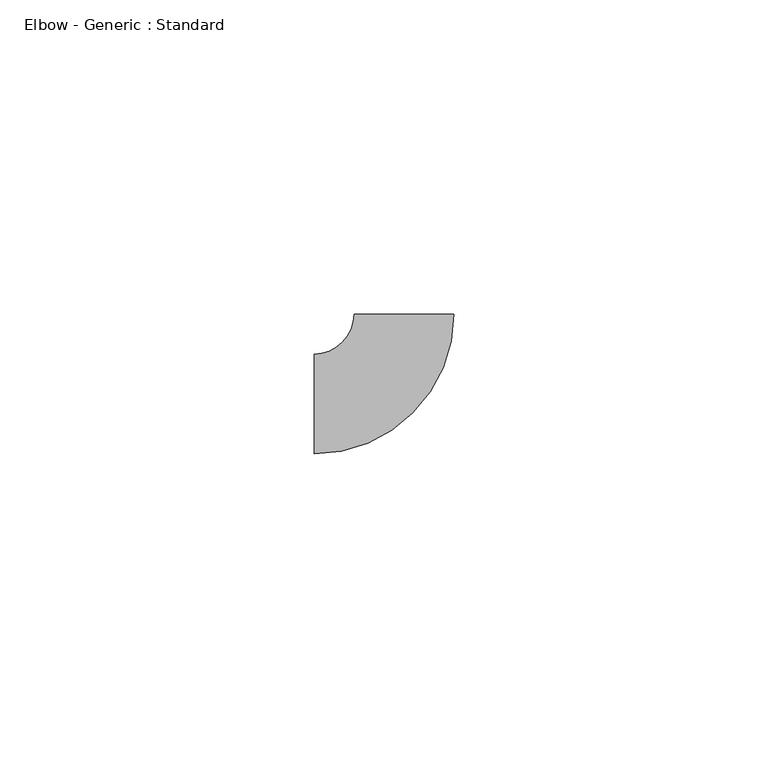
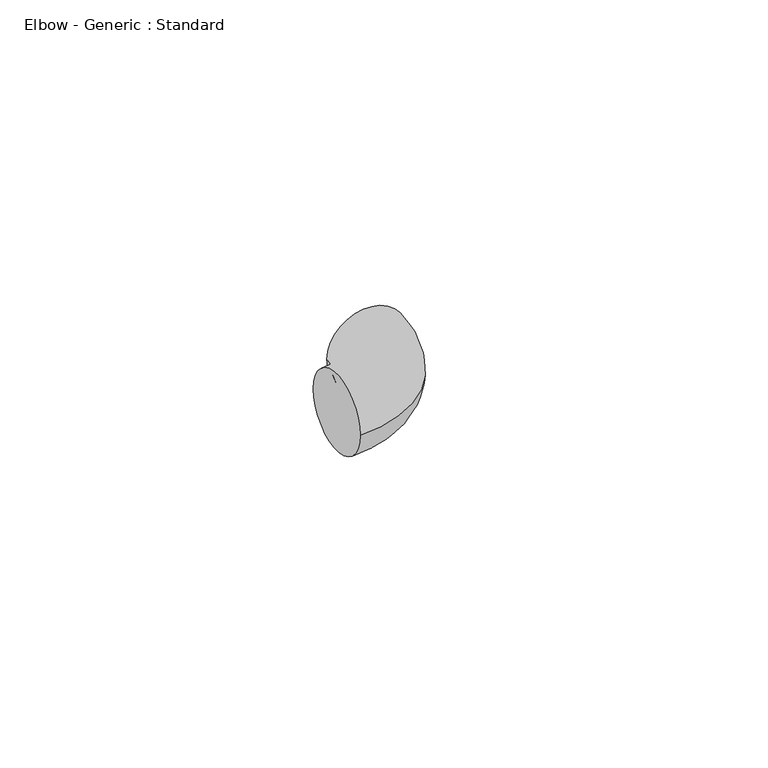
"""IFC4 building model written with IfcOpenShell, lengths in millimetres: pipe fitting geometry, Elbow - Generic : Standard."""

from ifc_helpers import new_model, si_unit, point, frame, origin, place, context, project, spatial, circle_curve, ellipse_curve, trimmed, source, transform, mapped, element, save
from ifc_brep_helpers import plane_surface, revolved_surface, advanced_brep


def elbow_generic_standard_ad6a8f26(model_context):
    return source(origin(), model_context, "Body", "AdvancedBrep", [
        advanced_brep(
        [(-14.2918952, -7.9375, 0.0), (-14.2918952, 7.9375, 0.0), (7.9331037, 14.2943359, 0.0), (-7.9418955, 14.2894531, 0.0)],
        [
            (0, 1, circle_curve(frame((-14.2918952, 0.0, 0.0), z_axis=(-1.0, 0.0, 0.0), x_axis=(0.0, 1.0, 0.0)), 7.9375)),
            (1, 0, circle_curve(frame((-14.2918952, 0.0, 0.0), z_axis=(-1.0, 0.0, 0.0), x_axis=(0.0, 1.0, 0.0)), 7.9375)),
            (2, 3, circle_curve(frame((-0.0043959, 14.2918945, 0.0), z_axis=(-0.0003075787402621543, 0.9999999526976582, 0.0), x_axis=(-0.9999999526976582, -0.0003075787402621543, 0.0)), 7.9375)),
            (3, 2, circle_curve(frame((-0.0043959, 14.2918945, 0.0), z_axis=(-0.0003075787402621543, 0.9999999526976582, 0.0), x_axis=(-0.9999999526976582, -0.0003075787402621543, 0.0)), 7.9375)),
            (3, 1, circle_curve(frame((-14.2918952, 14.2875, 0.0), z_axis=(0.0, 0.0, -1.0), x_axis=(0.0, -1.0, 0.0)), 6.35)),
            (0, 2, circle_curve(frame((-14.2918952, 14.2875, 0.0), z_axis=(0.0, 0.0, 1.0), x_axis=(0.0, -1.0, 0.0)), 22.225)),
        ],
        [
            plane_surface(frame((-14.2918952, 0.0, 0.0), z_axis=(-1.0, 0.0, 0.0), x_axis=(0.0, 0.0, 1.0))),
            plane_surface(frame((-0.0043959, 14.2918945, 0.0), z_axis=(-0.00030757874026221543, 0.9999999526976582, 0.0), x_axis=(0.0, 0.0, 1.0))),
            revolved_surface(trimmed(ellipse_curve(frame((-14.2918952, 0.0, 0.0), z_axis=(-1.0, 0.0, 0.0), x_axis=(0.0, 1.0, 0.0)), 7.9375, 7.9375), [point((-14.2918952, -7.9375, 0.0))], [point((-14.2918952, 7.9375, 0.0))], True, "CARTESIAN"), (-14.2918952, 14.2875, 0.0), (0.0, 0.0, 1.0)),
            revolved_surface(trimmed(ellipse_curve(frame((-14.2918952, 0.0, 0.0), z_axis=(-1.0, 0.0, 0.0), x_axis=(0.0, 1.0, 0.0)), 7.9375, 7.9375), [point((-14.2918952, 7.9375, 0.0))], [point((-14.2918952, -7.9375, 0.0))], True, "CARTESIAN"), (-14.2918952, 14.2875, 0.0), (0.0, 0.0, 1.0)),
        ],
        [
            (0, [[1, 2]]),
            (1, [[3, 4]]),
            (2, [[5, -1, 6, -4]]),
            (3, [[-6, -2, -5, -3]]),
        ],
    ),
    ])


if __name__ == "__main__":
    model = new_model("IFC4")
    model_context = context("Model", 3, world=origin())
    ifc_project = project(units=[si_unit("LENGTHUNIT", "METRE", prefix="MILLI")], contexts=[model_context])
    site = spatial("IfcSite", under=ifc_project)
    building = spatial("IfcBuilding", under=site)
    placement = place(None, origin())
    elbow_generic_standard_shape = elbow_generic_standard_ad6a8f26(model_context)
    element("IfcPipeFitting", 1, ObjectType="Elbow - Generic : Standard", at=placement, inside=building, context=model_context, shape_type="MappedRepresentation", body=[
        mapped(elbow_generic_standard_shape, transform((0.0, 0.0, 0.0), x_axis=(1.0, 0.0, 0.0), y_axis=(0.0, 1.0, 0.0), z_axis=(0.0, 0.0, 1.0))),
    ])
    save(model, "model.ifc")
